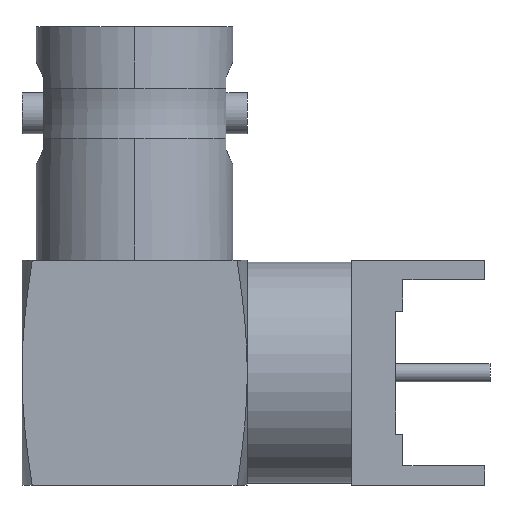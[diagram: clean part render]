
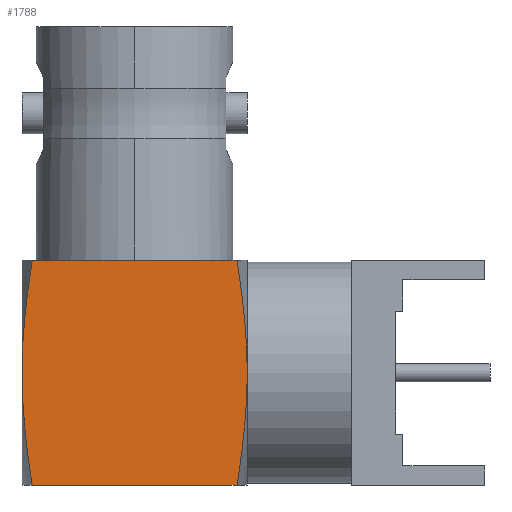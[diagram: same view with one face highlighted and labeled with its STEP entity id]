
A CAD part, left-side view. The second image highlights one B-rep face of the part: STEP entity #1788.
In plain terms, the highlighted planar face has unit normal (-1, 0, 0).
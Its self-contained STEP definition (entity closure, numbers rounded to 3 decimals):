
#438=DIRECTION('',(0.,1.,0.));
#439=VECTOR('',#438,10.);
#440=CARTESIAN_POINT('',(-5.5,-5.,-11.4));
#441=LINE('',#440,#439);
#537=CARTESIAN_POINT('',(-5.5,-5.5,-16.9));
#538=CARTESIAN_POINT('',(-5.5,-5.5,-16.743));
#539=CARTESIAN_POINT('',(-5.5,-5.497,-16.43));
#540=CARTESIAN_POINT('',(-5.5,-5.484,-15.962));
#541=CARTESIAN_POINT('',(-5.5,-5.463,-15.495));
#542=CARTESIAN_POINT('',(-5.5,-5.433,-15.029));
#543=CARTESIAN_POINT('',(-5.5,-5.397,-14.562));
#544=CARTESIAN_POINT('',(-5.5,-5.353,-14.09));
#545=CARTESIAN_POINT('',(-5.5,-5.301,-13.607));
#546=CARTESIAN_POINT('',(-5.5,-5.242,-13.108));
#547=CARTESIAN_POINT('',(-5.5,-5.173,-12.582));
#548=CARTESIAN_POINT('',(-5.5,-5.095,-12.022));
#549=CARTESIAN_POINT('',(-5.5,-5.033,-11.613));
#550=CARTESIAN_POINT('',(-5.5,-5.,-11.4));
#552=CARTESIAN_POINT('',(-5.5,-5.,-22.4));
#553=CARTESIAN_POINT('',(-5.5,-5.033,-22.187));
#554=CARTESIAN_POINT('',(-5.5,-5.095,-21.778));
#555=CARTESIAN_POINT('',(-5.5,-5.173,-21.218));
#556=CARTESIAN_POINT('',(-5.5,-5.242,-20.693));
#557=CARTESIAN_POINT('',(-5.5,-5.301,-20.193));
#558=CARTESIAN_POINT('',(-5.5,-5.353,-19.71));
#559=CARTESIAN_POINT('',(-5.5,-5.397,-19.237));
#560=CARTESIAN_POINT('',(-5.5,-5.433,-18.77));
#561=CARTESIAN_POINT('',(-5.5,-5.463,-18.305));
#562=CARTESIAN_POINT('',(-5.5,-5.484,-17.838));
#563=CARTESIAN_POINT('',(-5.5,-5.497,-17.37));
#564=CARTESIAN_POINT('',(-5.5,-5.5,-17.057));
#565=CARTESIAN_POINT('',(-5.5,-5.5,-16.9));
#567=CARTESIAN_POINT('',(-5.5,5.,-22.4));
#568=CARTESIAN_POINT('',(-5.5,5.033,-22.187));
#569=CARTESIAN_POINT('',(-5.5,5.095,-21.778));
#570=CARTESIAN_POINT('',(-5.5,5.173,-21.218));
#571=CARTESIAN_POINT('',(-5.5,5.242,-20.693));
#572=CARTESIAN_POINT('',(-5.5,5.301,-20.193));
#573=CARTESIAN_POINT('',(-5.5,5.353,-19.71));
#574=CARTESIAN_POINT('',(-5.5,5.397,-19.237));
#575=CARTESIAN_POINT('',(-5.5,5.433,-18.77));
#576=CARTESIAN_POINT('',(-5.5,5.463,-18.305));
#577=CARTESIAN_POINT('',(-5.5,5.484,-17.838));
#578=CARTESIAN_POINT('',(-5.5,5.497,-17.37));
#579=CARTESIAN_POINT('',(-5.5,5.5,-17.057));
#580=CARTESIAN_POINT('',(-5.5,5.5,-16.9));
#582=CARTESIAN_POINT('',(-5.5,5.5,-16.9));
#583=CARTESIAN_POINT('',(-5.5,5.5,-16.743));
#584=CARTESIAN_POINT('',(-5.5,5.497,-16.43));
#585=CARTESIAN_POINT('',(-5.5,5.484,-15.962));
#586=CARTESIAN_POINT('',(-5.5,5.463,-15.495));
#587=CARTESIAN_POINT('',(-5.5,5.433,-15.029));
#588=CARTESIAN_POINT('',(-5.5,5.397,-14.562));
#589=CARTESIAN_POINT('',(-5.5,5.353,-14.09));
#590=CARTESIAN_POINT('',(-5.5,5.301,-13.607));
#591=CARTESIAN_POINT('',(-5.5,5.242,-13.108));
#592=CARTESIAN_POINT('',(-5.5,5.173,-12.582));
#593=CARTESIAN_POINT('',(-5.5,5.095,-12.022));
#594=CARTESIAN_POINT('',(-5.5,5.033,-11.613));
#595=CARTESIAN_POINT('',(-5.5,5.,-11.4));
#1043=DIRECTION('',(0.,1.,0.));
#1044=VECTOR('',#1043,10.);
#1045=CARTESIAN_POINT('',(-5.5,-5.,-22.4));
#1046=LINE('',#1045,#1044);
#1426=CARTESIAN_POINT('',(-5.5,-5.,-11.4));
#1427=CARTESIAN_POINT('',(-5.5,5.,-11.4));
#1428=VERTEX_POINT('',#1426);
#1429=VERTEX_POINT('',#1427);
#1434=CARTESIAN_POINT('',(-5.5,-5.,-22.4));
#1435=CARTESIAN_POINT('',(-5.5,5.,-22.4));
#1436=VERTEX_POINT('',#1434);
#1437=VERTEX_POINT('',#1435);
#1441=VERTEX_POINT('',#580);
#1445=CARTESIAN_POINT('',(-5.5,-5.5,-16.9));
#1446=VERTEX_POINT('',#1445);
#1771=CARTESIAN_POINT('',(-5.5,-5.5,-11.4));
#1772=DIRECTION('',(-1.,0.,0.));
#1773=DIRECTION('',(0.,1.,0.));
#1774=AXIS2_PLACEMENT_3D('',#1771,#1772,#1773);
#1775=PLANE('',#1774);
#1776=ORIENTED_EDGE('',*,*,#1700,.F.);
#1778=ORIENTED_EDGE('',*,*,#1777,.F.);
#1780=ORIENTED_EDGE('',*,*,#1779,.F.);
#1782=ORIENTED_EDGE('',*,*,#1781,.T.);
#1783=ORIENTED_EDGE('',*,*,#1737,.T.);
#1785=ORIENTED_EDGE('',*,*,#1784,.T.);
#1786=EDGE_LOOP('',(#1776,#1778,#1780,#1782,#1783,#1785));
#1787=FACE_OUTER_BOUND('',#1786,.F.);
#551=B_SPLINE_CURVE_WITH_KNOTS('',3,(#537,#538,#539,#540,#541,#542,#543,#544,
#545,#546,#547,#548,#549,#550),.UNSPECIFIED.,.F.,.F.,(4,1,1,1,1,1,1,1,1,1,1,4),(
0.,0.091,0.182,0.273,0.364,
0.455,0.545,0.636,0.727,
0.818,0.909,1.),.UNSPECIFIED.);
#566=B_SPLINE_CURVE_WITH_KNOTS('',3,(#552,#553,#554,#555,#556,#557,#558,#559,
#560,#561,#562,#563,#564,#565),.UNSPECIFIED.,.F.,.F.,(4,1,1,1,1,1,1,1,1,1,1,4),(
0.,0.091,0.182,0.273,0.364,
0.455,0.545,0.636,0.727,
0.818,0.909,1.),.UNSPECIFIED.);
#581=B_SPLINE_CURVE_WITH_KNOTS('',3,(#567,#568,#569,#570,#571,#572,#573,#574,
#575,#576,#577,#578,#579,#580),.UNSPECIFIED.,.F.,.F.,(4,1,1,1,1,1,1,1,1,1,1,4),(
0.,0.091,0.182,0.273,0.364,
0.455,0.545,0.636,0.727,
0.818,0.909,1.),.UNSPECIFIED.);
#596=B_SPLINE_CURVE_WITH_KNOTS('',3,(#582,#583,#584,#585,#586,#587,#588,#589,
#590,#591,#592,#593,#594,#595),.UNSPECIFIED.,.F.,.F.,(4,1,1,1,1,1,1,1,1,1,1,4),(
0.,0.091,0.182,0.273,0.364,
0.455,0.545,0.636,0.727,
0.818,0.909,1.),.UNSPECIFIED.);
#1700=EDGE_CURVE('',#1428,#1429,#441,.T.);
#1737=EDGE_CURVE('',#1437,#1441,#581,.T.);
#1777=EDGE_CURVE('',#1446,#1428,#551,.T.);
#1779=EDGE_CURVE('',#1436,#1446,#566,.T.);
#1781=EDGE_CURVE('',#1436,#1437,#1046,.T.);
#1784=EDGE_CURVE('',#1441,#1429,#596,.T.);
#1788=ADVANCED_FACE('',(#1787),#1775,.T.);
